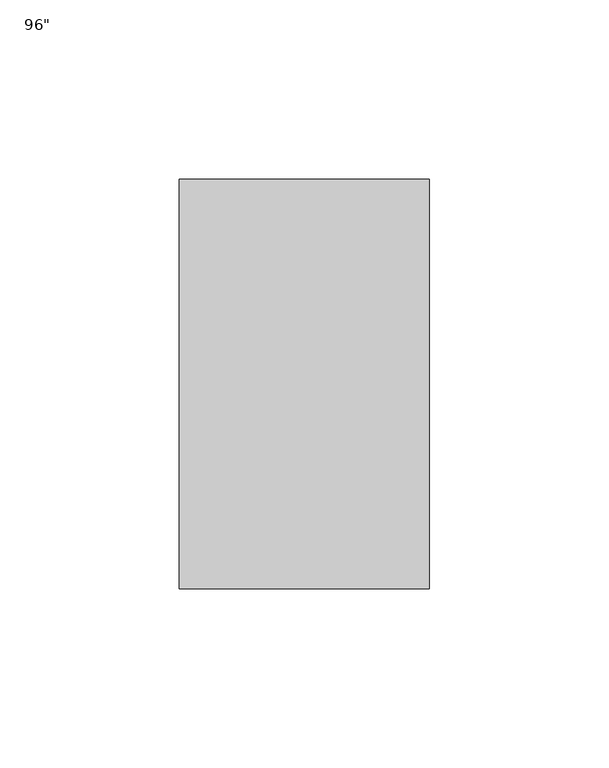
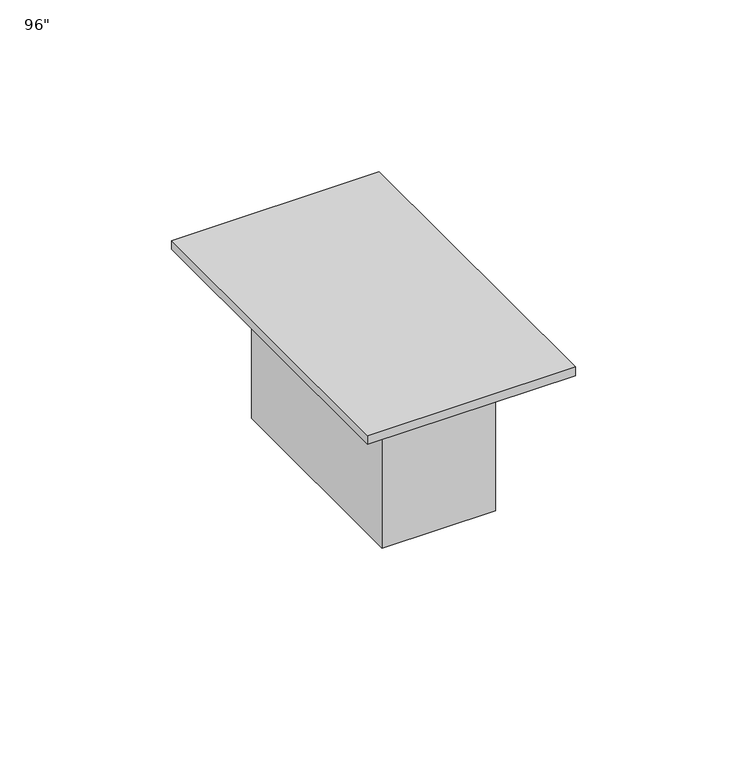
"""IFC4 building model written with IfcOpenShell, lengths in millimetres: proxy geometry."""

from ifc_helpers import new_model, si_unit, frame, origin, origin_with_axes, place, context, project, spatial, polyline, outline, extrude, source, transform, mapped, element, save


def proxy_537532d4(model_context):
    return source(origin(), model_context, "Body", "SweptSolid", [
        extrude(outline(polyline([(19.05, 2476.5), (19.05, 2400.3), (-19.05, 2400.3), (-19.05, 2476.5), (19.05, 2476.5)])), frame((0.0, 0.0, -53.975), z_axis=(0.0, 0.0, 1.0), x_axis=(1.0, 0.0, 0.0)), (0.0, 0.0, 1.0), 53.975),
        extrude(outline(polyline([(34.925, 2495.55), (34.925, 2381.25), (-34.925, 2381.25), (-34.925, 2495.55), (34.925, 2495.55)])), origin_with_axes(), (0.0, 0.0, 1.0), 3.175),
    ])


if __name__ == "__main__":
    model = new_model("IFC4")
    model_context = context("Model", 3, world=origin())
    ifc_project = project(units=[si_unit("LENGTHUNIT", "METRE", prefix="MILLI")], contexts=[model_context])
    site = spatial("IfcSite", under=ifc_project)
    building = spatial("IfcBuilding", under=site)
    placement = place(None, origin())
    proxy_shape = proxy_537532d4(model_context)
    element("IfcBuildingElementProxy", 1, Name="BA_EF - Receptacle Duplex Wall : 96\"", ObjectType="BA_EF - Receptacle Duplex Wall : 96\"", at=placement, inside=building, context=model_context, shape_type="MappedRepresentation", body=[
        mapped(proxy_shape, transform((0.0, 0.0, 0.0), x_axis=(1.0, 0.0, 0.0), y_axis=(0.0, 1.0, 0.0), z_axis=(0.0, 0.0, 1.0))),
    ])
    save(model, "model.ifc")
